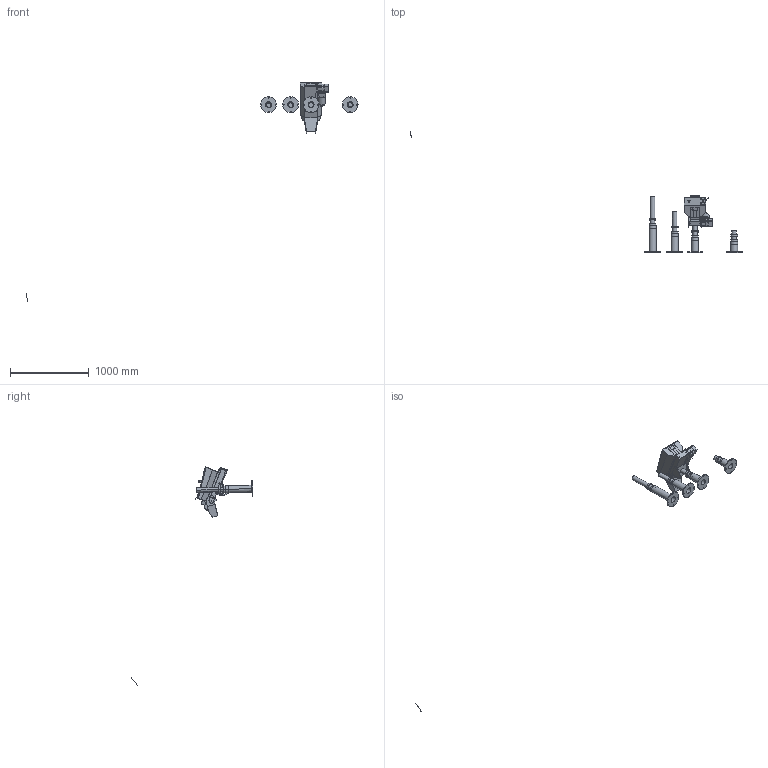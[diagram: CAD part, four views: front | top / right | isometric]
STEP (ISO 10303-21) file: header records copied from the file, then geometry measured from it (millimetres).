
FILE_DESCRIPTION (( 'STEP AP203' ), '1' );
FILE_NAME ('CS1212 怀冞湍01.STEP', '2025-07-26T01:47:13', ( '' ), ( '' ), 'SwSTEP 2.0', 'SolidWorks 2022', '' );
FILE_SCHEMA (( 'CONFIG_CONTROL_DESIGN' ));
Length unit declared in the file: millimetre
Products named in the file (1): CS1212 怀冞湍01
Bounding box: 4224.65 x 1551.12 x 2775.33 mm (x, y, z)
Surface area: 2766422.3 mm2 (no closed solid volume)
Topology: 0 solids, 39 shells, 785 faces, 2082 edges, 1370 vertices
Faces by surface type: cylinder 410, plane 353, bspline 14, cone 8
Entity records: 25441 total; most frequent: CARTESIAN_POINT 4794, DIRECTION 4422, ORIENTED_EDGE 4128, EDGE_CURVE 2066, AXIS2_PLACEMENT_3D 1602, VERTEX_POINT 1370, LINE 1218, VECTOR 1218
